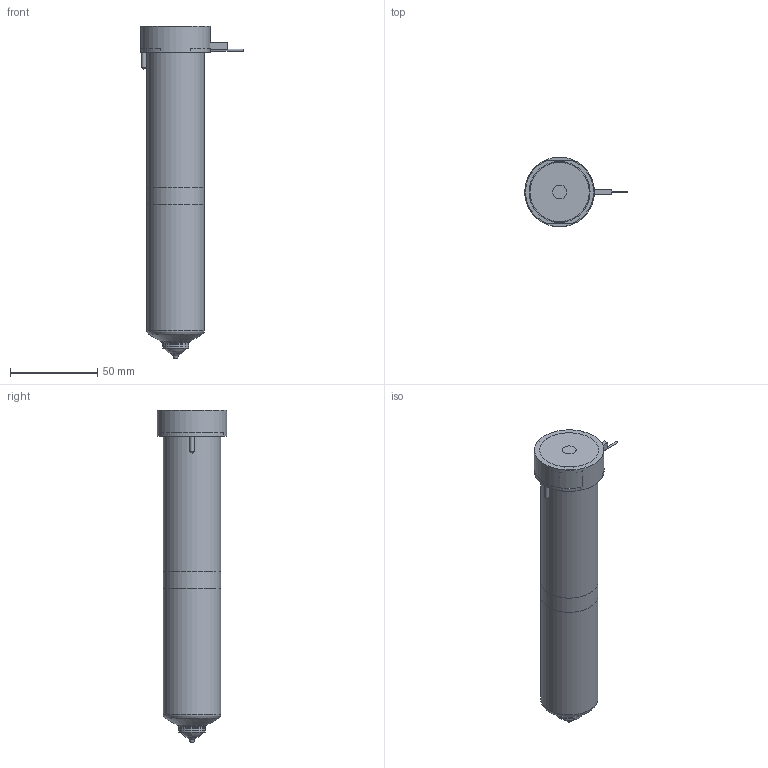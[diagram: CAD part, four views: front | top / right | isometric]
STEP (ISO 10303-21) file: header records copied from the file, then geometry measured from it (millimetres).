
FILE_DESCRIPTION(/* description */ (''),/* implementation_level */ '2;1');
FILE_NAME(/* name */ 'BXTV19175_250C_b',/* time_stamp */ '2007-01-18T10:02:07+13:00',/* author */ (''),/* organization */ (''),/* preprocessor_version */ 'ST-DEVELOPER v9',/* originating_system */ 'UGS - NX 4.0',/* authorisation */ '');
FILE_SCHEMA (('CONFIG_CONTROL_DESIGN'));
Length unit declared in the file: millimetre
Products named in the file (1): BXTV19175_250C_b
Bounding box: 58.85 x 40 x 190.58 mm (x, y, z)
Volume: 290903.4 mm3; surface area: 45086 mm2
Topology: 6 solids, 6 shells, 82 faces, 163 edges, 104 vertices
Faces by surface type: plane 36, cylinder 23, cone 13, torus 8, bspline 2
Full cylindrical faces by diameter (mm): 1 x3, 2.5 x2, 3 x1, 8 x1, 14.61 x1, 15.01 x2, 18.3 x1, 28.6 x1, 33 x2, 40 x1
Entity records: 2043 total; most frequent: CARTESIAN_POINT 427, DIRECTION 340, ORIENTED_EDGE 236, AXIS2_PLACEMENT_3D 151, EDGE_LOOP 128, EDGE_CURVE 118, VERTEX_POINT 95, ADVANCED_FACE 82
